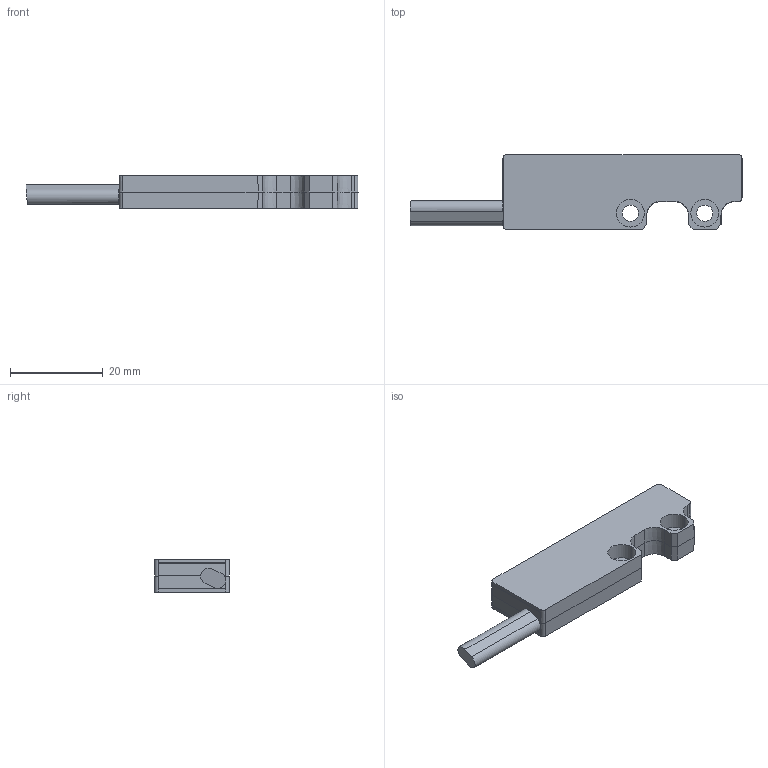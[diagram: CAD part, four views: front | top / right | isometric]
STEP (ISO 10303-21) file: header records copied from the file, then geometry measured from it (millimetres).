
FILE_DESCRIPTION(/* description */ (''),/* implementation_level */ '2;1');
FILE_NAME(/* name */ 'C:\Vault_local\Designs\Stock\3D pour clients\2D3D 500\2D3D 508 B.stp',/* time_stamp */ '2018-04-27T07:33:10+02:00',/* author */ ('fbros'),/* organization */ (''),/* preprocessor_version */ 'ST-DEVELOPER v15.2',/* originating_system */ 'Autodesk Inventor 2014',/* authorisation */ '');
FILE_SCHEMA (('CONFIG_CONTROL_DESIGN'));
Length unit declared in the file: centimetre
Products named in the file (1): PSA
Bounding box: 71.4 x 16.1 x 7 mm (x, y, z)
Volume: 5299 mm3; surface area: 3115.3 mm2
Topology: 2 solids, 4 shells, 78 faces, 187 edges, 118 vertices
Faces by surface type: plane 54, cone 14, cylinder 10
Entity records: 2359 total; most frequent: DIRECTION 392, CARTESIAN_POINT 384, ORIENTED_EDGE 376, EDGE_CURVE 187, LINE 140, VECTOR 140, AXIS2_PLACEMENT_3D 126, VERTEX_POINT 118
